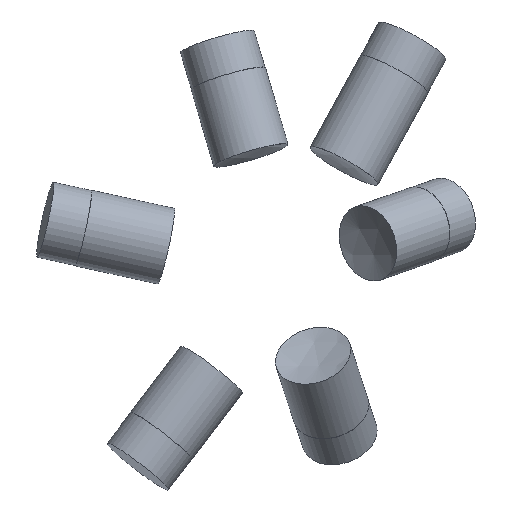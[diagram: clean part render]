
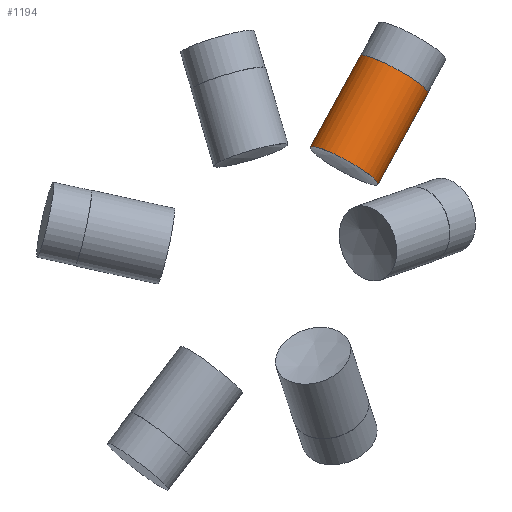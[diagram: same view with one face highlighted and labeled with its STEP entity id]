
A CAD part, left-side view. The second image highlights one B-rep face of the part: STEP entity #1194.
In plain terms, the highlighted cylindrical face has radius 6 mm (diameter 12 mm), a full revolution.
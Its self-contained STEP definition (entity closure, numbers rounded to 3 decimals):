
#33 = SPHERICAL_SURFACE('',#34,20.);
#34 = AXIS2_PLACEMENT_3D('',#35,#36,#37);
#35 = CARTESIAN_POINT('',(0.,0.,0.));
#36 = DIRECTION('',(0.,0.,1.));
#37 = DIRECTION('',(1.,0.,-0.));
#797 = EDGE_CURVE('',#798,#798,#800,.T.);
#798 = VERTEX_POINT('',#799);
#799 = CARTESIAN_POINT('',(2.998,-3.791,
    19.407));
#800 = SURFACE_CURVE('',#801,(#806,#903),.PCURVE_S1.);
#801 = CIRCLE('',#802,6.);
#802 = AXIS2_PLACEMENT_3D('',#803,#804,#805);
#803 = CARTESIAN_POINT('',(2.998,-9.053,
    16.525));
#804 = DIRECTION('',(0.157,-0.474,0.866));
#805 = DIRECTION('',(0.,-0.877,-0.48)
  );
#806 = PCURVE('',#33,#807);
#807 = DEFINITIONAL_REPRESENTATION('',(#808),#902);
#808 = B_SPLINE_CURVE_WITH_KNOTS('',8,(#809,#810,#811,#812,#813,#814,
    #815,#816,#817,#818,#819,#820,#821,#822,#823,#824,#825,#826,#827,
    #828,#829,#830,#831,#832,#833,#834,#835,#836,#837,#838,#839,#840,
    #841,#842,#843,#844,#845,#846,#847,#848,#849,#850,#851,#852,#853,
    #854,#855,#856,#857,#858,#859,#860,#861,#862,#863,#864,#865,#866,
    #867,#868,#869,#870,#871,#872,#873,#874,#875,#876,#877,#878,#879,
    #880,#881,#882,#883,#884,#885,#886,#887,#888,#889,#890,#891,#892,
    #893,#894,#895,#896,#897,#898,#899,#900,#901),.UNSPECIFIED.,.F.,.F.,
  (9,7,7,7,7,7,7,7,7,7,7,7,7,9),(3.142,3.338,
    3.528,3.712,4.069,4.404,
    5.032,6.13,6.954,7.571,
    8.498,8.961,9.193,9.425),
  .UNSPECIFIED.);
#809 = CARTESIAN_POINT('',(5.381,1.327));
#810 = CARTESIAN_POINT('',(5.356,1.331));
#811 = CARTESIAN_POINT('',(5.33,1.335));
#812 = CARTESIAN_POINT('',(5.302,1.338));
#813 = CARTESIAN_POINT('',(5.273,1.341));
#814 = CARTESIAN_POINT('',(5.243,1.344));
#815 = CARTESIAN_POINT('',(5.211,1.346));
#816 = CARTESIAN_POINT('',(5.179,1.348));
#817 = CARTESIAN_POINT('',(5.114,1.351));
#818 = CARTESIAN_POINT('',(5.081,1.352));
#819 = CARTESIAN_POINT('',(5.048,1.352));
#820 = CARTESIAN_POINT('',(5.015,1.352));
#821 = CARTESIAN_POINT('',(4.982,1.352));
#822 = CARTESIAN_POINT('',(4.95,1.351));
#823 = CARTESIAN_POINT('',(4.918,1.35));
#824 = CARTESIAN_POINT('',(4.856,1.346));
#825 = CARTESIAN_POINT('',(4.826,1.344));
#826 = CARTESIAN_POINT('',(4.797,1.342));
#827 = CARTESIAN_POINT('',(4.77,1.339));
#828 = CARTESIAN_POINT('',(4.743,1.336));
#829 = CARTESIAN_POINT('',(4.718,1.332));
#830 = CARTESIAN_POINT('',(4.693,1.329));
#831 = CARTESIAN_POINT('',(4.626,1.317));
#832 = CARTESIAN_POINT('',(4.586,1.308));
#833 = CARTESIAN_POINT('',(4.552,1.298));
#834 = CARTESIAN_POINT('',(4.522,1.287));
#835 = CARTESIAN_POINT('',(4.496,1.276));
#836 = CARTESIAN_POINT('',(4.474,1.264));
#837 = CARTESIAN_POINT('',(4.456,1.252));
#838 = CARTESIAN_POINT('',(4.426,1.228));
#839 = CARTESIAN_POINT('',(4.415,1.216));
#840 = CARTESIAN_POINT('',(4.406,1.204));
#841 = CARTESIAN_POINT('',(4.399,1.192));
#842 = CARTESIAN_POINT('',(4.394,1.179));
#843 = CARTESIAN_POINT('',(4.39,1.167));
#844 = CARTESIAN_POINT('',(4.389,1.154));
#845 = CARTESIAN_POINT('',(4.388,1.118));
#846 = CARTESIAN_POINT('',(4.392,1.095));
#847 = CARTESIAN_POINT('',(4.4,1.071));
#848 = CARTESIAN_POINT('',(4.412,1.048));
#849 = CARTESIAN_POINT('',(4.426,1.026));
#850 = CARTESIAN_POINT('',(4.442,1.004));
#851 = CARTESIAN_POINT('',(4.461,0.982));
#852 = CARTESIAN_POINT('',(4.516,0.926));
#853 = CARTESIAN_POINT('',(4.556,0.892));
#854 = CARTESIAN_POINT('',(4.6,0.861));
#855 = CARTESIAN_POINT('',(4.648,0.834));
#856 = CARTESIAN_POINT('',(4.698,0.81));
#857 = CARTESIAN_POINT('',(4.75,0.79));
#858 = CARTESIAN_POINT('',(4.803,0.774));
#859 = CARTESIAN_POINT('',(4.898,0.753));
#860 = CARTESIAN_POINT('',(4.94,0.746));
#861 = CARTESIAN_POINT('',(4.982,0.742));
#862 = CARTESIAN_POINT('',(5.024,0.74));
#863 = CARTESIAN_POINT('',(5.066,0.741));
#864 = CARTESIAN_POINT('',(5.108,0.744));
#865 = CARTESIAN_POINT('',(5.149,0.75));
#866 = CARTESIAN_POINT('',(5.221,0.764));
#867 = CARTESIAN_POINT('',(5.252,0.772));
#868 = CARTESIAN_POINT('',(5.282,0.78));
#869 = CARTESIAN_POINT('',(5.311,0.79));
#870 = CARTESIAN_POINT('',(5.34,0.802));
#871 = CARTESIAN_POINT('',(5.369,0.814));
#872 = CARTESIAN_POINT('',(5.397,0.828));
#873 = CARTESIAN_POINT('',(5.464,0.865));
#874 = CARTESIAN_POINT('',(5.502,0.889));
#875 = CARTESIAN_POINT('',(5.538,0.916));
#876 = CARTESIAN_POINT('',(5.572,0.945));
#877 = CARTESIAN_POINT('',(5.602,0.976));
#878 = CARTESIAN_POINT('',(5.628,1.008));
#879 = CARTESIAN_POINT('',(5.649,1.041));
#880 = CARTESIAN_POINT('',(5.669,1.092));
#881 = CARTESIAN_POINT('',(5.675,1.11));
#882 = CARTESIAN_POINT('',(5.678,1.127));
#883 = CARTESIAN_POINT('',(5.678,1.144));
#884 = CARTESIAN_POINT('',(5.677,1.162));
#885 = CARTESIAN_POINT('',(5.672,1.179));
#886 = CARTESIAN_POINT('',(5.663,1.196));
#887 = CARTESIAN_POINT('',(5.644,1.221));
#888 = CARTESIAN_POINT('',(5.636,1.23));
#889 = CARTESIAN_POINT('',(5.627,1.238));
#890 = CARTESIAN_POINT('',(5.617,1.246));
#891 = CARTESIAN_POINT('',(5.606,1.254));
#892 = CARTESIAN_POINT('',(5.593,1.262));
#893 = CARTESIAN_POINT('',(5.579,1.269));
#894 = CARTESIAN_POINT('',(5.546,1.284));
#895 = CARTESIAN_POINT('',(5.529,1.291));
#896 = CARTESIAN_POINT('',(5.509,1.298));
#897 = CARTESIAN_POINT('',(5.488,1.304));
#898 = CARTESIAN_POINT('',(5.464,1.311));
#899 = CARTESIAN_POINT('',(5.439,1.316));
#900 = CARTESIAN_POINT('',(5.411,1.322));
#901 = CARTESIAN_POINT('',(5.381,1.327));
#902 = ( GEOMETRIC_REPRESENTATION_CONTEXT(2) 
PARAMETRIC_REPRESENTATION_CONTEXT() REPRESENTATION_CONTEXT('2D SPACE',''
  ) );
#903 = PCURVE('',#904,#909);
#904 = CYLINDRICAL_SURFACE('',#905,6.);
#905 = AXIS2_PLACEMENT_3D('',#906,#907,#908);
#906 = CARTESIAN_POINT('',(0.,0.,0.));
#907 = DIRECTION('',(0.157,-0.474,0.866));
#908 = DIRECTION('',(0.,0.877,0.48)
  );
#909 = DEFINITIONAL_REPRESENTATION('',(#910),#914);
#910 = LINE('',#911,#912);
#911 = CARTESIAN_POINT('',(-3.142,19.079));
#912 = VECTOR('',#913,1.);
#913 = DIRECTION('',(1.,0.));
#914 = ( GEOMETRIC_REPRESENTATION_CONTEXT(2) 
PARAMETRIC_REPRESENTATION_CONTEXT() REPRESENTATION_CONTEXT('2D SPACE',''
  ) );
#1194 = ADVANCED_FACE('',(#1195),#904,.T.);
#1195 = FACE_BOUND('',#1196,.T.);
#1196 = EDGE_LOOP('',(#1197,#1220,#1247,#1248));
#1197 = ORIENTED_EDGE('',*,*,#1198,.T.);
#1198 = EDGE_CURVE('',#798,#1199,#1201,.T.);
#1199 = VERTEX_POINT('',#1200);
#1200 = CARTESIAN_POINT('',(5.563,-11.538,
    33.548));
#1201 = SEAM_CURVE('',#1202,(#1206,#1213),.PCURVE_S1.);
#1202 = LINE('',#1203,#1204);
#1203 = CARTESIAN_POINT('',(0.,5.262,
    2.883));
#1204 = VECTOR('',#1205,1.);
#1205 = DIRECTION('',(0.157,-0.474,0.866));
#1206 = PCURVE('',#904,#1207);
#1207 = DEFINITIONAL_REPRESENTATION('',(#1208),#1212);
#1208 = LINE('',#1209,#1210);
#1209 = CARTESIAN_POINT('',(6.283,-0.));
#1210 = VECTOR('',#1211,1.);
#1211 = DIRECTION('',(0.,1.));
#1212 = ( GEOMETRIC_REPRESENTATION_CONTEXT(2) 
PARAMETRIC_REPRESENTATION_CONTEXT() REPRESENTATION_CONTEXT('2D SPACE',''
  ) );
#1213 = PCURVE('',#904,#1214);
#1214 = DEFINITIONAL_REPRESENTATION('',(#1215),#1219);
#1215 = LINE('',#1216,#1217);
#1216 = CARTESIAN_POINT('',(0.,-0.));
#1217 = VECTOR('',#1218,1.);
#1218 = DIRECTION('',(0.,1.));
#1219 = ( GEOMETRIC_REPRESENTATION_CONTEXT(2) 
PARAMETRIC_REPRESENTATION_CONTEXT() REPRESENTATION_CONTEXT('2D SPACE',''
  ) );
#1220 = ORIENTED_EDGE('',*,*,#1221,.F.);
#1221 = EDGE_CURVE('',#1199,#1199,#1222,.T.);
#1222 = SURFACE_CURVE('',#1223,(#1228,#1235),.PCURVE_S1.);
#1223 = CIRCLE('',#1224,6.);
#1224 = AXIS2_PLACEMENT_3D('',#1225,#1226,#1227);
#1225 = CARTESIAN_POINT('',(5.563,-16.8,
    30.666));
#1226 = DIRECTION('',(0.157,-0.474,0.866));
#1227 = DIRECTION('',(0.,0.877,0.48)
  );
#1228 = PCURVE('',#904,#1229);
#1229 = DEFINITIONAL_REPRESENTATION('',(#1230),#1234);
#1230 = LINE('',#1231,#1232);
#1231 = CARTESIAN_POINT('',(0.,35.406));
#1232 = VECTOR('',#1233,1.);
#1233 = DIRECTION('',(1.,0.));
#1234 = ( GEOMETRIC_REPRESENTATION_CONTEXT(2) 
PARAMETRIC_REPRESENTATION_CONTEXT() REPRESENTATION_CONTEXT('2D SPACE',''
  ) );
#1235 = PCURVE('',#1236,#1241);
#1236 = PLANE('',#1237);
#1237 = AXIS2_PLACEMENT_3D('',#1238,#1239,#1240);
#1238 = CARTESIAN_POINT('',(5.563,-16.8,
    30.666));
#1239 = DIRECTION('',(0.157,-0.474,0.866));
#1240 = DIRECTION('',(0.,0.877,0.48)
  );
#1241 = DEFINITIONAL_REPRESENTATION('',(#1242),#1246);
#1242 = CIRCLE('',#1243,6.);
#1243 = AXIS2_PLACEMENT_2D('',#1244,#1245);
#1244 = CARTESIAN_POINT('',(0.,0.));
#1245 = DIRECTION('',(1.,0.));
#1246 = ( GEOMETRIC_REPRESENTATION_CONTEXT(2) 
PARAMETRIC_REPRESENTATION_CONTEXT() REPRESENTATION_CONTEXT('2D SPACE',''
  ) );
#1247 = ORIENTED_EDGE('',*,*,#1198,.F.);
#1248 = ORIENTED_EDGE('',*,*,#797,.T.);
